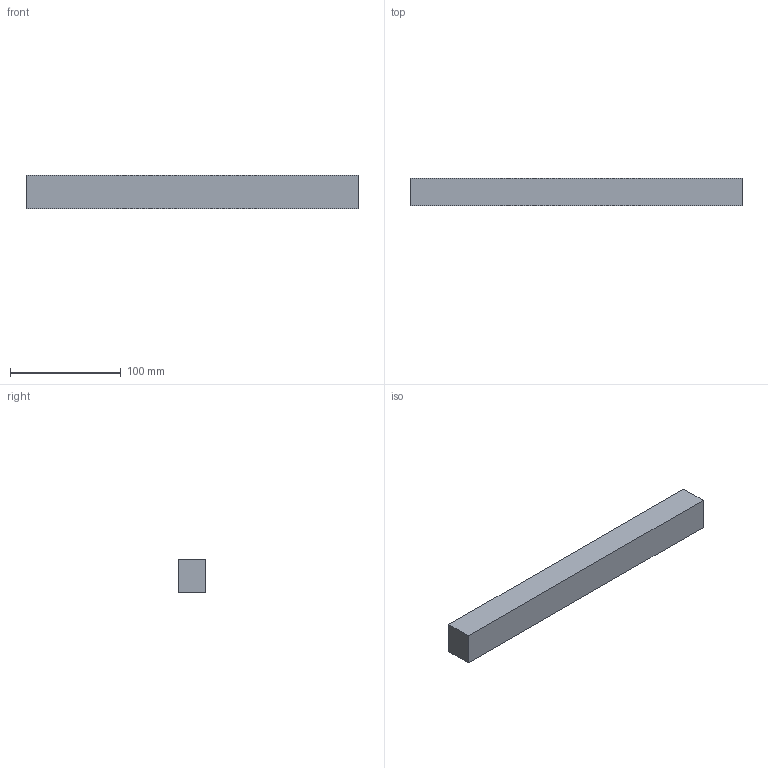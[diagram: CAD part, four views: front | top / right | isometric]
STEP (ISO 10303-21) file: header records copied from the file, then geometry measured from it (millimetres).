
FILE_DESCRIPTION(('CATIA V5 STEP Exchange'),'2;1');
FILE_NAME('C:\Users\Utente\Desktop\3D files G405\G40530300.stp','2020-04-22T09:25:36+00:00',('none'),('none'),'CATIA Version 5 Release 20 GA (IN-10)','CATIA V5 STEP AP203','none');
FILE_SCHEMA(('CONFIG_CONTROL_DESIGN'));
Length unit declared in the file: millimetre
Products named in the file (1): G40530300
Bounding box: 300 x 25 x 30 mm (x, y, z)
Surface area: 42852.8 mm2 (no closed solid volume)
Topology: 0 solids, 942 shells, 942 faces, 4014 edges, 3568 vertices
Faces by surface type: revolution 542, cylinder 296, plane 104
Entity records: 43792 total; most frequent: CARTESIAN_POINT 14199, DIRECTION 4666, ORIENTED_EDGE 3568, EDGE_CURVE 3568, VERTEX_POINT 3568, AXIS2_PLACEMENT_3D 2025, VECTOR 1700, LINE 1700
